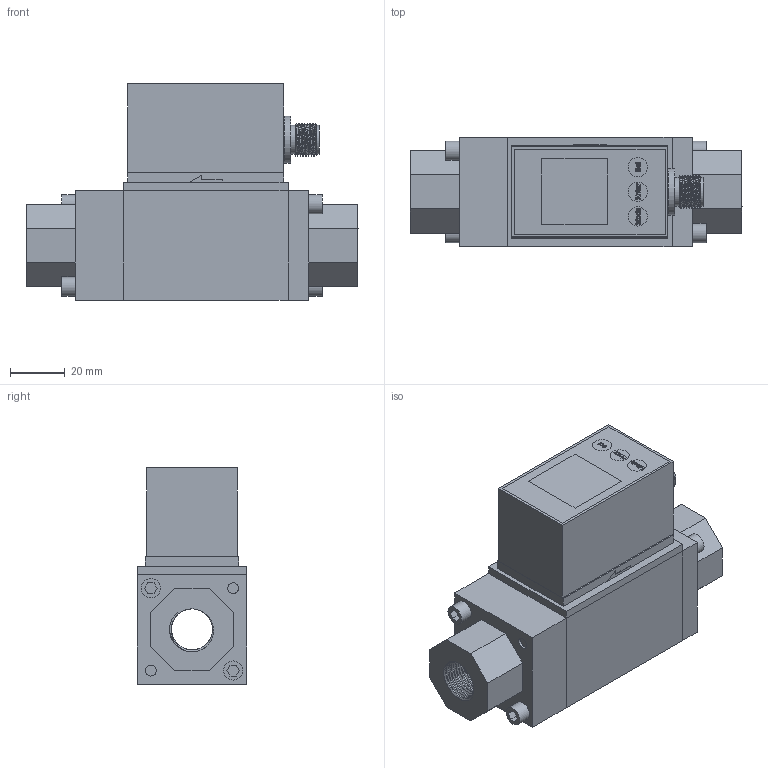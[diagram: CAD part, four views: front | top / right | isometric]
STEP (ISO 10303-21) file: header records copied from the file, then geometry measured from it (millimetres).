
FILE_DESCRIPTION (( 'STEP AP203' ), '1' );
FILE_NAME ('苤講最G38.STEP', '2024-07-12T01:27:44', ( '' ), ( '' ), 'SwSTEP 2.0', 'SolidWorks 2023', '' );
FILE_SCHEMA (( 'CONFIG_CONTROL_DESIGN' ));
Length unit declared in the file: millimetre
Products named in the file (9): G38出水口; 04-M12针套（5针）; 08-固定螺栓; G38进水口; 小量程G38; 02-显示模块; 03-M12盘装插座; G38主体; 01-基座
Assembly tree (11 placements, depth 2):
  小量程G38
    01-基座
    02-显示模块
    03-M12盘装插座
    04-M12针套（5针）
    08-固定螺栓  x4
    G38出水口
    G38进水口
    G38主体
Bounding box: 121 x 40 x 78.91 mm (x, y, z)
Volume: 217191.6 mm3; surface area: 59823.8 mm2
Topology: 11 solids, 11 shells, 395 faces, 990 edges, 661 vertices
Faces by surface type: plane 232, bspline 90, cylinder 65, torus 8
Full cylindrical faces by diameter (mm): 1 x5, 4 x16, 7 x7, 9 x1, 9.5 x2, 10.5 x2, 12 x2, 14.95 x25, 17 x1
Entity records: 19942 total; most frequent: CARTESIAN_POINT 11582, ORIENTED_EDGE 1594, DIRECTION 1192, EDGE_CURVE 797, VERTEX_POINT 556, VECTOR 520, LINE 520, EDGE_LOOP 445
